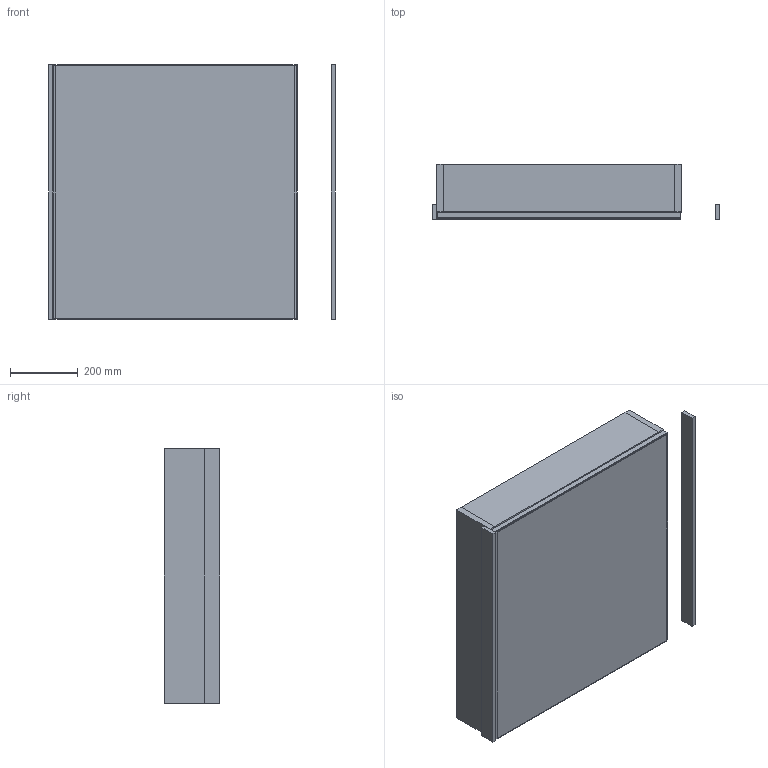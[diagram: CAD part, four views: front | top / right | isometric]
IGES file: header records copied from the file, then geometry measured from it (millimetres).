
Start section: Data from Parasolid IGES Translator 19.0.9, Copyright(c) 2006 Siemens PL M Software. All Rights Reserved.
Global section: file name: noorth-mirror-H 75 D 4,5-16 W 72_9143.igs; native system: By Siemens PLM Incorporated; preprocessor: XPlus GENERIC/IGES 19.0.9; author: Noname; organization: Noname; date: 20200519.112200; units: metre
Bounding box: 843.82 x 162 x 750 mm (x, y, z)
Volume: 20403295.3 mm3; surface area: 4331332 mm2
Topology: 10 solids, 10 shells, 84 faces, 168 edges, 104 vertices
Faces by surface type: plane 84
